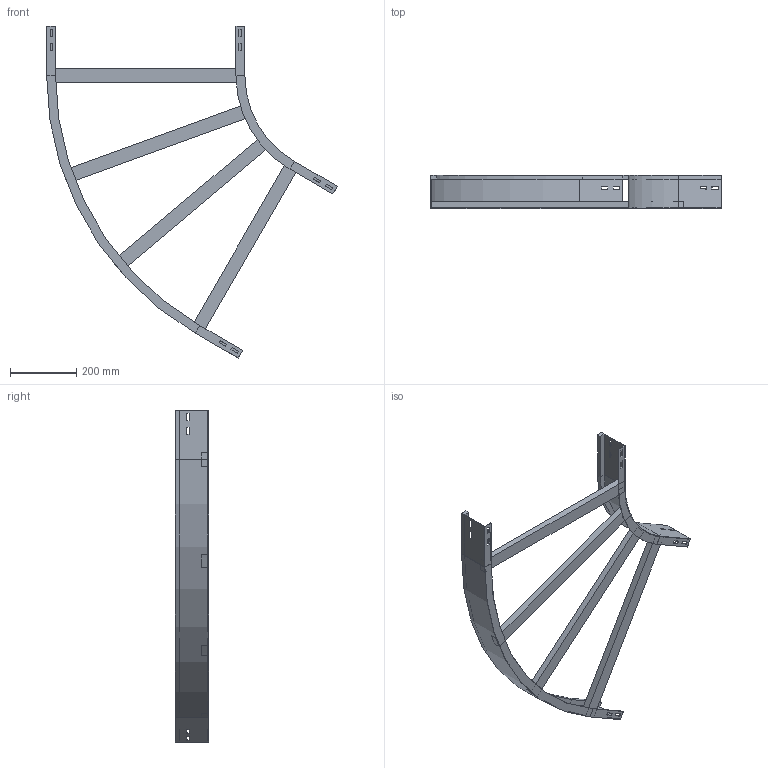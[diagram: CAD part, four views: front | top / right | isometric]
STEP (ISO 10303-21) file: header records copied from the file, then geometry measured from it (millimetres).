
FILE_DESCRIPTION (( 'STEP AP214' ), '1' );
FILE_NAME ('A2_13B3D600.step', '2025-02-21T15:17:53', ( '' ), ( '' ), 'SwSTEP 2.0', 'SolidWorks 2023', '' );
FILE_SCHEMA (( 'AUTOMOTIVE_DESIGN' ));
Length unit declared in the file: millimetre
Products named in the file (4): A2_LONGH.ESTERNO 60°_H100_R300+600; A2_LONGH.INTERNO 60°_H100_R300; A2_13B3D600; TRAVERSINO_600
Assembly tree (6 placements, depth 2):
  A2_13B3D600
    A2_LONGH.INTERNO 60°_H100_R300
    A2_LONGH.ESTERNO 60°_H100_R300+600
    TRAVERSINO_600  x4
Bounding box: 879.9 x 100 x 1004.42 mm (x, y, z)
Volume: 2746745.6 mm3; surface area: 824638.2 mm2
Topology: 6 solids, 6 shells, 140 faces, 352 edges, 224 vertices
Faces by surface type: plane 132, cylinder 8
Entity records: 3829 total; most frequent: CARTESIAN_POINT 647, ORIENTED_EDGE 632, DIRECTION 594, EDGE_CURVE 316, VECTOR 300, LINE 300, VERTEX_POINT 200, EDGE_LOOP 154
